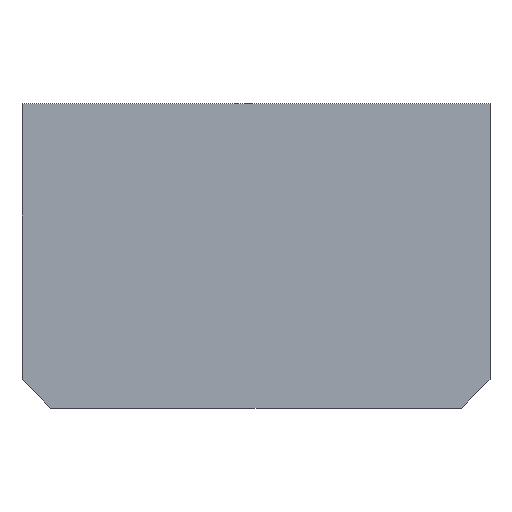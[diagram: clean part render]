
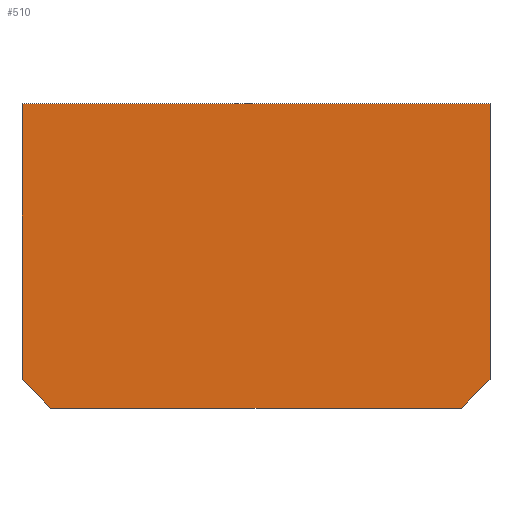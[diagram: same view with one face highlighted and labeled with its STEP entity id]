
A CAD part, top view. The second image highlights one B-rep face of the part: STEP entity #510.
In plain terms, the highlighted planar face has unit normal (0, 0, 1).
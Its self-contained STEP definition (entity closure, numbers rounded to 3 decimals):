
#42 = VERTEX_POINT('',#43);
#43 = CARTESIAN_POINT('',(-38.2,-20.133,14.2));
#50 = PLANE('',#51);
#51 = AXIS2_PLACEMENT_3D('',#52,#53,#54);
#52 = CARTESIAN_POINT('',(-38.2,-20.133,14.));
#53 = DIRECTION('',(-1.,0.,0.));
#54 = DIRECTION('',(0.,1.,0.));
#62 = PLANE('',#63);
#63 = AXIS2_PLACEMENT_3D('',#64,#65,#66);
#64 = CARTESIAN_POINT('',(-33.483,-24.85,14.));
#65 = DIRECTION('',(-0.707,-0.707,0.));
#66 = DIRECTION('',(-0.707,0.707,0.));
#74 = EDGE_CURVE('',#42,#75,#77,.T.);
#75 = VERTEX_POINT('',#76);
#76 = CARTESIAN_POINT('',(-38.2,24.85,14.2));
#77 = SURFACE_CURVE('',#78,(#82,#89),.PCURVE_S1.);
#78 = LINE('',#79,#80);
#79 = CARTESIAN_POINT('',(-38.2,-20.05,14.2));
#80 = VECTOR('',#81,1.);
#81 = DIRECTION('',(0.,1.,0.));
#82 = PCURVE('',#50,#83);
#83 = DEFINITIONAL_REPRESENTATION('',(#84),#88);
#84 = LINE('',#85,#86);
#85 = CARTESIAN_POINT('',(0.083,-0.2));
#86 = VECTOR('',#87,1.);
#87 = DIRECTION('',(1.,0.));
#88 = ( GEOMETRIC_REPRESENTATION_CONTEXT(2) 
PARAMETRIC_REPRESENTATION_CONTEXT() REPRESENTATION_CONTEXT('2D SPACE',''
  ) );
#89 = PCURVE('',#90,#95);
#90 = PLANE('',#91);
#91 = AXIS2_PLACEMENT_3D('',#92,#93,#94);
#92 = CARTESIAN_POINT('',(0.,0.578,14.2));
#93 = DIRECTION('',(-0.,-0.,-1.));
#94 = DIRECTION('',(-1.,0.,0.));
#95 = DEFINITIONAL_REPRESENTATION('',(#96),#100);
#96 = LINE('',#97,#98);
#97 = CARTESIAN_POINT('',(38.2,-20.628));
#98 = VECTOR('',#99,1.);
#99 = DIRECTION('',(0.,1.));
#100 = ( GEOMETRIC_REPRESENTATION_CONTEXT(2) 
PARAMETRIC_REPRESENTATION_CONTEXT() REPRESENTATION_CONTEXT('2D SPACE',''
  ) );
#118 = PLANE('',#119);
#119 = AXIS2_PLACEMENT_3D('',#120,#121,#122);
#120 = CARTESIAN_POINT('',(-38.2,24.85,14.));
#121 = DIRECTION('',(-0.,1.,0.));
#122 = DIRECTION('',(1.,0.,-0.));
#160 = EDGE_CURVE('',#75,#161,#163,.T.);
#161 = VERTEX_POINT('',#162);
#162 = CARTESIAN_POINT('',(38.2,24.85,14.2));
#163 = SURFACE_CURVE('',#164,(#168,#175),.PCURVE_S1.);
#164 = LINE('',#165,#166);
#165 = CARTESIAN_POINT('',(-38.,24.85,14.2));
#166 = VECTOR('',#167,1.);
#167 = DIRECTION('',(1.,0.,-0.));
#168 = PCURVE('',#118,#169);
#169 = DEFINITIONAL_REPRESENTATION('',(#170),#174);
#170 = LINE('',#171,#172);
#171 = CARTESIAN_POINT('',(0.2,-0.2));
#172 = VECTOR('',#173,1.);
#173 = DIRECTION('',(1.,0.));
#174 = ( GEOMETRIC_REPRESENTATION_CONTEXT(2) 
PARAMETRIC_REPRESENTATION_CONTEXT() REPRESENTATION_CONTEXT('2D SPACE',''
  ) );
#175 = PCURVE('',#90,#176);
#176 = DEFINITIONAL_REPRESENTATION('',(#177),#181);
#177 = LINE('',#178,#179);
#178 = CARTESIAN_POINT('',(38.,24.272));
#179 = VECTOR('',#180,1.);
#180 = DIRECTION('',(-1.,0.));
#181 = ( GEOMETRIC_REPRESENTATION_CONTEXT(2) 
PARAMETRIC_REPRESENTATION_CONTEXT() REPRESENTATION_CONTEXT('2D SPACE',''
  ) );
#199 = PLANE('',#200);
#200 = AXIS2_PLACEMENT_3D('',#201,#202,#203);
#201 = CARTESIAN_POINT('',(38.2,24.85,14.));
#202 = DIRECTION('',(1.,-0.,0.));
#203 = DIRECTION('',(-0.,-1.,0.));
#236 = EDGE_CURVE('',#161,#237,#239,.T.);
#237 = VERTEX_POINT('',#238);
#238 = CARTESIAN_POINT('',(38.2,-20.133,14.2));
#239 = SURFACE_CURVE('',#240,(#244,#251),.PCURVE_S1.);
#240 = LINE('',#241,#242);
#241 = CARTESIAN_POINT('',(38.2,24.65,14.2));
#242 = VECTOR('',#243,1.);
#243 = DIRECTION('',(-0.,-1.,0.));
#244 = PCURVE('',#199,#245);
#245 = DEFINITIONAL_REPRESENTATION('',(#246),#250);
#246 = LINE('',#247,#248);
#247 = CARTESIAN_POINT('',(0.2,-0.2));
#248 = VECTOR('',#249,1.);
#249 = DIRECTION('',(1.,0.));
#250 = ( GEOMETRIC_REPRESENTATION_CONTEXT(2) 
PARAMETRIC_REPRESENTATION_CONTEXT() REPRESENTATION_CONTEXT('2D SPACE',''
  ) );
#251 = PCURVE('',#90,#252);
#252 = DEFINITIONAL_REPRESENTATION('',(#253),#257);
#253 = LINE('',#254,#255);
#254 = CARTESIAN_POINT('',(-38.2,24.072));
#255 = VECTOR('',#256,1.);
#256 = DIRECTION('',(0.,-1.));
#257 = ( GEOMETRIC_REPRESENTATION_CONTEXT(2) 
PARAMETRIC_REPRESENTATION_CONTEXT() REPRESENTATION_CONTEXT('2D SPACE',''
  ) );
#275 = PLANE('',#276);
#276 = AXIS2_PLACEMENT_3D('',#277,#278,#279);
#277 = CARTESIAN_POINT('',(38.2,-20.133,14.));
#278 = DIRECTION('',(0.707,-0.707,0.));
#279 = DIRECTION('',(-0.707,-0.707,0.));
#312 = EDGE_CURVE('',#237,#313,#315,.T.);
#313 = VERTEX_POINT('',#314);
#314 = CARTESIAN_POINT('',(33.483,-24.85,14.2));
#315 = SURFACE_CURVE('',#316,(#320,#327),.PCURVE_S1.);
#316 = LINE('',#317,#318);
#317 = CARTESIAN_POINT('',(38.141,-20.191,14.2));
#318 = VECTOR('',#319,1.);
#319 = DIRECTION('',(-0.707,-0.707,0.));
#320 = PCURVE('',#275,#321);
#321 = DEFINITIONAL_REPRESENTATION('',(#322),#326);
#322 = LINE('',#323,#324);
#323 = CARTESIAN_POINT('',(0.083,-0.2));
#324 = VECTOR('',#325,1.);
#325 = DIRECTION('',(1.,0.));
#326 = ( GEOMETRIC_REPRESENTATION_CONTEXT(2) 
PARAMETRIC_REPRESENTATION_CONTEXT() REPRESENTATION_CONTEXT('2D SPACE',''
  ) );
#327 = PCURVE('',#90,#328);
#328 = DEFINITIONAL_REPRESENTATION('',(#329),#333);
#329 = LINE('',#330,#331);
#330 = CARTESIAN_POINT('',(-38.141,-20.769));
#331 = VECTOR('',#332,1.);
#332 = DIRECTION('',(0.707,-0.707));
#333 = ( GEOMETRIC_REPRESENTATION_CONTEXT(2) 
PARAMETRIC_REPRESENTATION_CONTEXT() REPRESENTATION_CONTEXT('2D SPACE',''
  ) );
#351 = PLANE('',#352);
#352 = AXIS2_PLACEMENT_3D('',#353,#354,#355);
#353 = CARTESIAN_POINT('',(33.483,-24.85,14.));
#354 = DIRECTION('',(0.,-1.,0.));
#355 = DIRECTION('',(-1.,0.,0.));
#388 = EDGE_CURVE('',#313,#389,#391,.T.);
#389 = VERTEX_POINT('',#390);
#390 = CARTESIAN_POINT('',(-33.483,-24.85,14.2));
#391 = SURFACE_CURVE('',#392,(#396,#403),.PCURVE_S1.);
#392 = LINE('',#393,#394);
#393 = CARTESIAN_POINT('',(33.4,-24.85,14.2));
#394 = VECTOR('',#395,1.);
#395 = DIRECTION('',(-1.,0.,0.));
#396 = PCURVE('',#351,#397);
#397 = DEFINITIONAL_REPRESENTATION('',(#398),#402);
#398 = LINE('',#399,#400);
#399 = CARTESIAN_POINT('',(0.083,-0.2));
#400 = VECTOR('',#401,1.);
#401 = DIRECTION('',(1.,0.));
#402 = ( GEOMETRIC_REPRESENTATION_CONTEXT(2) 
PARAMETRIC_REPRESENTATION_CONTEXT() REPRESENTATION_CONTEXT('2D SPACE',''
  ) );
#403 = PCURVE('',#90,#404);
#404 = DEFINITIONAL_REPRESENTATION('',(#405),#409);
#405 = LINE('',#406,#407);
#406 = CARTESIAN_POINT('',(-33.4,-25.428));
#407 = VECTOR('',#408,1.);
#408 = DIRECTION('',(1.,0.));
#409 = ( GEOMETRIC_REPRESENTATION_CONTEXT(2) 
PARAMETRIC_REPRESENTATION_CONTEXT() REPRESENTATION_CONTEXT('2D SPACE',''
  ) );
#459 = EDGE_CURVE('',#389,#42,#460,.T.);
#460 = SURFACE_CURVE('',#461,(#465,#472),.PCURVE_S1.);
#461 = LINE('',#462,#463);
#462 = CARTESIAN_POINT('',(-33.541,-24.791,14.2));
#463 = VECTOR('',#464,1.);
#464 = DIRECTION('',(-0.707,0.707,0.));
#465 = PCURVE('',#62,#466);
#466 = DEFINITIONAL_REPRESENTATION('',(#467),#471);
#467 = LINE('',#468,#469);
#468 = CARTESIAN_POINT('',(0.083,-0.2));
#469 = VECTOR('',#470,1.);
#470 = DIRECTION('',(1.,0.));
#471 = ( GEOMETRIC_REPRESENTATION_CONTEXT(2) 
PARAMETRIC_REPRESENTATION_CONTEXT() REPRESENTATION_CONTEXT('2D SPACE',''
  ) );
#472 = PCURVE('',#90,#473);
#473 = DEFINITIONAL_REPRESENTATION('',(#474),#478);
#474 = LINE('',#475,#476);
#475 = CARTESIAN_POINT('',(33.541,-25.369));
#476 = VECTOR('',#477,1.);
#477 = DIRECTION('',(0.707,0.707));
#478 = ( GEOMETRIC_REPRESENTATION_CONTEXT(2) 
PARAMETRIC_REPRESENTATION_CONTEXT() REPRESENTATION_CONTEXT('2D SPACE',''
  ) );
#510 = ADVANCED_FACE('',(#511),#90,.F.);
#511 = FACE_BOUND('',#512,.F.);
#512 = EDGE_LOOP('',(#513,#514,#515,#516,#517,#518));
#513 = ORIENTED_EDGE('',*,*,#74,.T.);
#514 = ORIENTED_EDGE('',*,*,#160,.T.);
#515 = ORIENTED_EDGE('',*,*,#236,.T.);
#516 = ORIENTED_EDGE('',*,*,#312,.T.);
#517 = ORIENTED_EDGE('',*,*,#388,.T.);
#518 = ORIENTED_EDGE('',*,*,#459,.T.);
